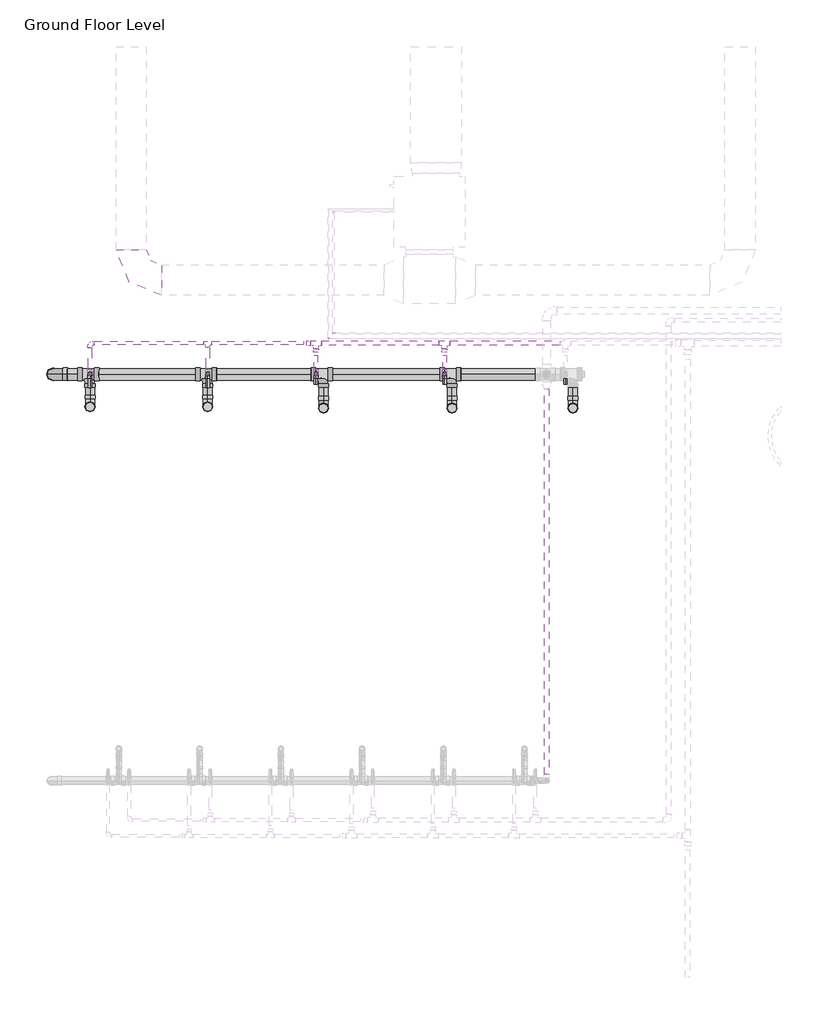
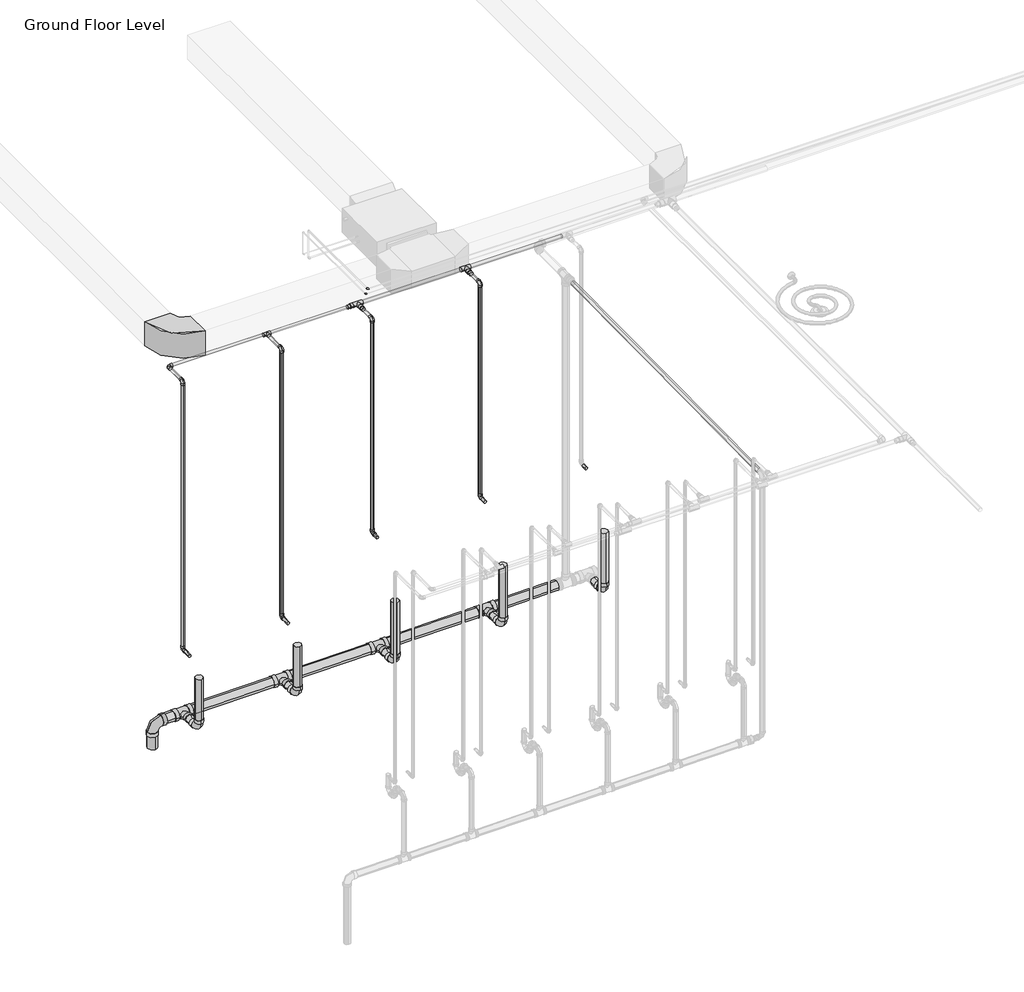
# One storey, part 42 of 74: 34 pipe segments, 27 pipe fittings, 1 duct fitting.
"""IFC4 building model written with IfcOpenShell, lengths in millimetres."""

from ifc_helpers import new_model, si_unit, point, frame, frame_2d, origin, place, context, project, spatial, circle_curve, trimmed, segment, composite_curve, outline, extrude, transform, mapped, element, save
from components import m_rectangular_elbow_radius_1_w_618da153, m_bend_pvc_sch_40_dwv_standard_a4b99d37, m_bend_pvc_sch_40_dwv_standard_b7b4a97e, m_elbow_generic_standard_a088f956, m_elbow_generic_standard_2a704253, m_tee_reducing_sanitary_pvc_sch_40_dwv_standard_b49161a9, standard_517a5a8d, standard_ecb2b93d, standard_28db8dab, standard_72b35c3b, standard_08ff6011, standard_d0d0b892

model = new_model("IFC4")

# Units and contexts
model_context = context("Model", 3, world=origin())
ifc_project = project(units=[si_unit("LENGTHUNIT", "METRE", prefix="MILLI")], contexts=[model_context])

# Site, building, storey
site = spatial("IfcSite", under=ifc_project)
building = spatial("IfcBuilding", under=site)
storey = spatial("IfcBuildingStorey", under=building, Name="Ground Floor Level", Elevation=900.0)

# Duct fitting
placement = place(None, origin())
m_rectangular_elbow_radius_1_w_shape = m_rectangular_elbow_radius_1_w_618da153(model_context)
element("IfcDuctFitting", 1, ObjectType="M_Rectangular Elbow - Radius : 1 W", at=placement, inside=storey, context=model_context, shape_type="MappedRepresentation", body=[
    mapped(m_rectangular_elbow_radius_1_w_shape, transform((-20937.2327605, 14069.8153534, 4075.2881511), x_axis=(0.0, -1.0, 0.0), y_axis=(1.0, 0.0, 0.0), z_axis=(0.0, 0.0, 1.0))),
])

# Pipe fittings
m_bend_pvc_sch_40_dwv_standard_shape = m_bend_pvc_sch_40_dwv_standard_a4b99d37(model_context)
element("IfcPipeFitting", 2, ObjectType="M_Bend - PVC - Sch 40 - DWV : Standard", at=placement, inside=storey, context=model_context, shape_type="MappedRepresentation", body=[
    mapped(m_bend_pvc_sch_40_dwv_standard_shape, transform((-21343.0428538, 12823.8178806, 203.6352174), x_axis=(0.0, 0.0, -1.0), y_axis=(0.0, 1.0, 0.0), z_axis=(1.0, 0.0, 0.0))),
])
element("IfcPipeFitting", 3, ObjectType="M_Bend - PVC - Sch 40 - DWV : Standard", at=placement, inside=storey, context=model_context, shape_type="MappedRepresentation", body=[
    mapped(m_bend_pvc_sch_40_dwv_standard_shape, transform((-20183.0428538, 12823.8178806, 215.2352174), x_axis=(0.0, 0.0, -1.0), y_axis=(0.0, 1.0, 0.0), z_axis=(1.0, 0.0, 0.0))),
])
element("IfcPipeFitting", 4, ObjectType="M_Bend - PVC - Sch 40 - DWV : Standard", at=placement, inside=storey, context=model_context, shape_type="MappedRepresentation", body=[
    mapped(m_bend_pvc_sch_40_dwv_standard_shape, transform((-19043.0428538, 12811.6726561, 226.6352174), x_axis=(0.0, 0.0, -1.0), y_axis=(0.0, 1.0, 0.0), z_axis=(1.0, 0.0, 0.0))),
])
element("IfcPipeFitting", 5, ObjectType="M_Bend - PVC - Sch 40 - DWV : Standard", at=placement, inside=storey, context=model_context, shape_type="MappedRepresentation", body=[
    mapped(m_bend_pvc_sch_40_dwv_standard_shape, transform((-17775.8329095, 12811.6726561, 239.3073168), x_axis=(0.0, 0.0, -1.0), y_axis=(0.0, 1.0, 0.0), z_axis=(1.0, 0.0, 0.0))),
])
element("IfcPipeFitting", 6, ObjectType="M_Bend - PVC - Sch 40 - DWV : Standard", at=placement, inside=storey, context=model_context, shape_type="MappedRepresentation", body=[
    mapped(m_bend_pvc_sch_40_dwv_standard_shape, transform((-16586.4202262, 12811.6726561, 251.2014437), x_axis=(0.0, 0.0, -1.0), y_axis=(0.0, 1.0, 0.0), z_axis=(1.0, 0.0, 0.0))),
])
m_bend_pvc_sch_40_dwv_standard_2_shape = m_bend_pvc_sch_40_dwv_standard_b7b4a97e(model_context)
element("IfcPipeFitting", 7, ObjectType="M_Bend - PVC - Sch 40 - DWV : Standard", at=placement, inside=storey, context=model_context, shape_type="MappedRepresentation", body=[
    mapped(m_bend_pvc_sch_40_dwv_standard_2_shape, transform((-21707.2327605, 13143.7240477, 200.1933183), x_axis=(0.0, 0.0, 1.0), y_axis=(1.0, 0.0, 0.0), z_axis=(0.0, 1.0, 0.0))),
])
m_elbow_generic_standard_shape = m_elbow_generic_standard_a088f956(model_context)
element("IfcPipeFitting", 8, ObjectType="M_Elbow - Generic : Standard", at=placement, inside=storey, context=model_context, shape_type="MappedRepresentation", body=[
    mapped(m_elbow_generic_standard_shape, transform((-18945.3327605, 13545.2153534, 4380.0), x_axis=(0.0, -1.0, 0.0), y_axis=(1.0, 0.0, 0.0), z_axis=(0.0, 0.0, 1.0))),
])
m_elbow_generic_standard_2_shape = m_elbow_generic_standard_2a704253(model_context)
element("IfcPipeFitting", 9, ObjectType="M_Elbow - Generic : Standard", at=placement, inside=storey, context=model_context, shape_type="MappedRepresentation", body=[
    mapped(m_elbow_generic_standard_2_shape, transform((-18995.0192947, 13494.0185138, 4365.0), x_axis=(0.0, -1.0, 0.0), y_axis=(1.0, 0.0, 0.0), z_axis=(0.0, 0.0, 1.0))),
])
m_tee_reducing_sanitary_pvc_sch_40_dwv_standard_shape = m_tee_reducing_sanitary_pvc_sch_40_dwv_standard_b49161a9(model_context)
element("IfcPipeFitting", 10, ObjectType="M_Tee Reducing Sanitary - PVC - Sch 40 - DWV : Standard", at=placement, inside=storey, context=model_context, shape_type="MappedRepresentation", body=[
    mapped(m_tee_reducing_sanitary_pvc_sch_40_dwv_standard_shape, transform((-21343.0428538, 13143.7240477, 203.6352174), x_axis=(0.9999500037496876, 0.0, 0.009999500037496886), y_axis=(0.0, 1.0, 0.0), z_axis=(-0.009999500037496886, 0.0, 0.9999500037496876))),
])
element("IfcPipeFitting", 11, ObjectType="M_Tee Reducing Sanitary - PVC - Sch 40 - DWV : Standard", at=placement, inside=storey, context=model_context, shape_type="MappedRepresentation", body=[
    mapped(m_tee_reducing_sanitary_pvc_sch_40_dwv_standard_shape, transform((-20183.0428538, 13143.7240477, 215.2352174), x_axis=(0.9999500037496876, 0.0, 0.009999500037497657), y_axis=(0.0, 1.0, 0.0), z_axis=(-0.009999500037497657, 0.0, 0.9999500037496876))),
])
element("IfcPipeFitting", 12, ObjectType="M_Tee Reducing Sanitary - PVC - Sch 40 - DWV : Standard", at=placement, inside=storey, context=model_context, shape_type="MappedRepresentation", body=[
    mapped(m_tee_reducing_sanitary_pvc_sch_40_dwv_standard_shape, transform((-19043.0428538, 13143.7240477, 226.6352174), x_axis=(0.9999500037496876, 0.0, 0.009999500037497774), y_axis=(0.0, 1.0000000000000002, 0.0), z_axis=(-0.009999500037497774, 0.0, 0.9999500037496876))),
])
element("IfcPipeFitting", 13, ObjectType="M_Tee Reducing Sanitary - PVC - Sch 40 - DWV : Standard", at=placement, inside=storey, context=model_context, shape_type="MappedRepresentation", body=[
    mapped(m_tee_reducing_sanitary_pvc_sch_40_dwv_standard_shape, transform((-17775.8329095, 13143.7240477, 239.3073168), x_axis=(0.9999500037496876, 0.0, 0.00999950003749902), y_axis=(0.0, 1.0000000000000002, 0.0), z_axis=(-0.00999950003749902, 0.0, 0.9999500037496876))),
])
standard_shape = standard_517a5a8d(model_context)
element("IfcPipeFitting", 14, ObjectType="M_Elbow - CPVC - Sch 40 : Standard", at=placement, inside=storey, context=model_context, shape_type="MappedRepresentation", body=[
    mapped(standard_shape, transform((-21343.0428538, 13149.9865561, 4315.0), x_axis=(0.0, 0.0, 1.0), y_axis=(0.0, 1.0, 0.0), z_axis=(-1.0, 0.0, 0.0))),
])
element("IfcPipeFitting", 15, ObjectType="M_Elbow - CPVC - Sch 40 : Standard", at=placement, inside=storey, context=model_context, shape_type="MappedRepresentation", body=[
    mapped(standard_shape, transform((-20183.0428538, 13149.9865561, 4315.0), x_axis=(0.0, 0.0, 1.0), y_axis=(0.0, 1.0, 0.0), z_axis=(-1.0, 0.0, 0.0))),
])
element("IfcPipeFitting", 16, ObjectType="M_Elbow - CPVC - Sch 40 : Standard", at=placement, inside=storey, context=model_context, shape_type="MappedRepresentation", body=[
    mapped(standard_shape, transform((-19116.48162, 13149.9865561, 1655.0), x_axis=(0.0, 1.0, 0.0), y_axis=(0.0, 0.0, 1.0), z_axis=(1.0, 0.0, 0.0))),
])
element("IfcPipeFitting", 17, ObjectType="M_Elbow - CPVC - Sch 40 : Standard", at=placement, inside=storey, context=model_context, shape_type="MappedRepresentation", body=[
    mapped(standard_shape, transform((-19116.48162, 13149.9865561, 4315.0), x_axis=(0.0, 0.0, 1.0), y_axis=(0.0, 1.0, 0.0), z_axis=(-1.0, 0.0, 0.0))),
])
element("IfcPipeFitting", 18, ObjectType="M_Elbow - CPVC - Sch 40 : Standard", at=placement, inside=storey, context=model_context, shape_type="MappedRepresentation", body=[
    mapped(standard_shape, transform((-17849.2716757, 13149.9865561, 4315.0), x_axis=(0.0, 0.0, 1.0), y_axis=(0.0, 1.0, 0.0), z_axis=(-1.0, 0.0, 0.0))),
])
element("IfcPipeFitting", 19, ObjectType="M_Elbow - CPVC - Sch 40 : Standard", at=placement, inside=storey, context=model_context, shape_type="MappedRepresentation", body=[
    mapped(standard_shape, transform((-17849.2716757, 13149.9865561, 1655.0), x_axis=(0.0, 0.0, -1.0), y_axis=(0.0, -1.0, 0.0), z_axis=(-1.0, 0.0, 0.0))),
])
element("IfcPipeFitting", 20, ObjectType="M_Elbow - CPVC - Sch 40 : Standard", at=placement, inside=storey, context=model_context, shape_type="MappedRepresentation", body=[
    mapped(standard_shape, transform((-21343.0428538, 13449.9865561, 4315.0), x_axis=(-1.0, 0.0, 0.0), y_axis=(0.0, -1.0, 0.0), z_axis=(0.0, 0.0, 1.0))),
])
standard_2_shape = standard_ecb2b93d(model_context)
element("IfcPipeFitting", 21, ObjectType="M_Elbow - CPVC - Sch 40 : Standard", at=placement, inside=storey, context=model_context, shape_type="MappedRepresentation", body=[
    mapped(standard_2_shape, transform((-21343.0428538, 13149.9865561, 983.5000035), x_axis=(0.0, 0.9999999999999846, 1.7577295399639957e-07), y_axis=(0.0, -1.7577295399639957e-07, 0.9999999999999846), z_axis=(1.0, 0.0, 0.0))),
])
standard_3_shape = standard_28db8dab(model_context)
element("IfcPipeFitting", 22, ObjectType="M_Elbow - CPVC - Sch 40 : Standard", at=placement, inside=storey, context=model_context, shape_type="MappedRepresentation", body=[
    mapped(standard_3_shape, transform((-20183.0428538, 13149.9865561, 983.4999984), x_axis=(0.0, 0.0, -1.0), y_axis=(0.0, -1.0, 0.0), z_axis=(-1.0, 0.0, 0.0))),
])
standard_4_shape = standard_72b35c3b(model_context)
element("IfcPipeFitting", 23, ObjectType="M_Tee - CPVC - Sch 40 : Standard", at=placement, inside=storey, context=model_context, shape_type="MappedRepresentation", body=[
    mapped(standard_4_shape, transform((-20183.0428538, 13449.9865561, 4315.0), x_axis=(-1.0, 0.0, 0.0), y_axis=(0.0, 1.0, 0.0), z_axis=(0.0, 0.0, -1.0))),
])
standard_5_shape = standard_08ff6011(model_context)
element("IfcPipeFitting", 24, ObjectType="M_Tee - CPVC - Sch 40 : Standard", at=placement, inside=storey, context=model_context, shape_type="MappedRepresentation", body=[
    mapped(standard_5_shape, transform((-19116.48162, 13449.9865561, 4315.0), x_axis=(-1.0, 0.0, 0.0), y_axis=(0.0, 1.0, 0.0), z_axis=(0.0, 0.0, -1.0))),
])
element("IfcPipeFitting", 25, ObjectType="M_Tee - CPVC - Sch 40 : Standard", at=placement, inside=storey, context=model_context, shape_type="MappedRepresentation", body=[
    mapped(standard_5_shape, transform((-17849.2716757, 13449.9865561, 4315.0), x_axis=(-1.0, 0.0, 0.0), y_axis=(0.0, 1.0, 0.0), z_axis=(0.0, 0.0, -1.0))),
])
standard_6_shape = standard_d0d0b892(model_context)
element("IfcPipeFitting", 26, ObjectType="M_Coupling Reducing - CPVC - Sch 40 : Standard", at=placement, inside=storey, context=model_context, shape_type="MappedRepresentation", body=[
    mapped(standard_6_shape, transform((-19116.48162, 13396.0115561, 4315.0), x_axis=(0.0, -1.0, 0.0), y_axis=(1.0, 0.0, 0.0), z_axis=(0.0, 0.0, 1.0))),
])
element("IfcPipeFitting", 27, ObjectType="M_Coupling Reducing - CPVC - Sch 40 : Standard", at=placement, inside=storey, context=model_context, shape_type="MappedRepresentation", body=[
    mapped(standard_6_shape, transform((-17849.2716757, 13396.0115561, 4315.0), x_axis=(0.0, -1.0, 0.0), y_axis=(1.0, 0.0, 0.0), z_axis=(0.0, 0.0, 1.0))),
])
element("IfcPipeFitting", 28, ObjectType="M_Coupling Reducing - CPVC - Sch 40 : Standard", at=placement, inside=storey, context=model_context, shape_type="MappedRepresentation", body=[
    mapped(standard_6_shape, transform((-19170.45662, 13449.9865561, 4315.0), x_axis=(-1.0, 0.0, 0.0), y_axis=(0.0, -1.0, 0.0), z_axis=(0.0, 0.0, 1.0))),
])

# Pipe segments
element("IfcPipeSegment", 29, ObjectType="CPVC", at=placement, inside=storey, context=model_context, shape_type="SweptSolid", body=[
    extrude(outline(composite_curve([segment(trimmed(circle_curve(frame_2d((983.4999789, -21343.0428538)), 16.7005), [point((983.4999789, -21326.3423538))], [point((1000.2004789, -21343.0428538))], False, "CARTESIAN"), True, "CONTINUOUS"), segment(trimmed(circle_curve(frame_2d((983.4999789, -21343.0428538)), 16.7005), [point((1000.2004789, -21343.0428538))], [point((983.4999789, -21359.7433538))], False, "CARTESIAN"), True, "CONTINUOUS"), segment(trimmed(circle_curve(frame_2d((983.4999789, -21343.0428538)), 16.7005), [point((983.4999789, -21359.7433538))], [point((966.7994789, -21343.0428538))], False, "CARTESIAN"), True, "CONTINUOUS"), segment(trimmed(circle_curve(frame_2d((983.4999789, -21343.0428538)), 16.7005), [point((966.7994789, -21343.0428538))], [point((983.4999789, -21326.3423538))], False, "CARTESIAN"), True, "CONTINUOUS")], self_intersect=False)), frame((0.0, 13009.9865561, 0.0), z_axis=(0.0, 1.0, 0.0), x_axis=(0.0, 0.0, 1.0)), (0.0, 0.0, 1.0), 96.7374537),
])
element("IfcPipeSegment", 30, ObjectType="CPVC", at=placement, inside=storey, context=model_context, shape_type="SweptSolid", body=[
    extrude(outline(composite_curve([segment(trimmed(circle_curve(frame_2d((4315.0, -21343.0428538)), 16.7005), [point((4315.0, -21326.3423538))], [point((4331.7005, -21343.0428538))], False, "CARTESIAN"), True, "CONTINUOUS"), segment(trimmed(circle_curve(frame_2d((4315.0, -21343.0428538)), 16.7005), [point((4331.7005, -21343.0428538))], [point((4315.0, -21359.7433538))], False, "CARTESIAN"), True, "CONTINUOUS"), segment(trimmed(circle_curve(frame_2d((4315.0, -21343.0428538)), 16.7005), [point((4315.0, -21359.7433538))], [point((4298.2995, -21343.0428538))], False, "CARTESIAN"), True, "CONTINUOUS"), segment(trimmed(circle_curve(frame_2d((4315.0, -21343.0428538)), 16.7005), [point((4298.2995, -21343.0428538))], [point((4315.0, -21326.3423538))], False, "CARTESIAN"), True, "CONTINUOUS")], self_intersect=False)), frame((0.0, 13193.2491061, 0.0), z_axis=(0.0, 1.0, 0.0), x_axis=(0.0, 0.0, 1.0)), (0.0, 0.0, 1.0), 213.4749),
])
element("IfcPipeSegment", 31, ObjectType="CPVC", at=placement, inside=storey, context=model_context, shape_type="SweptSolid", body=[
    extrude(outline(composite_curve([segment(trimmed(circle_curve(frame_2d((-21343.0428538, 13149.9865561)), 16.7005), [point((-21359.7433538, 13149.9865561))], [point((-21343.0428538, 13166.6870561))], False, "CARTESIAN"), True, "CONTINUOUS"), segment(trimmed(circle_curve(frame_2d((-21343.0428538, 13149.9865561)), 16.7005), [point((-21343.0428538, 13166.6870561))], [point((-21326.3423538, 13149.9865561))], False, "CARTESIAN"), True, "CONTINUOUS"), segment(trimmed(circle_curve(frame_2d((-21343.0428538, 13149.9865561)), 16.7005), [point((-21326.3423538, 13149.9865561))], [point((-21343.0428538, 13133.2860561))], False, "CARTESIAN"), True, "CONTINUOUS"), segment(trimmed(circle_curve(frame_2d((-21343.0428538, 13149.9865561)), 16.7005), [point((-21343.0428538, 13133.2860561))], [point((-21359.7433538, 13149.9865561))], False, "CARTESIAN"), True, "CONTINUOUS")], self_intersect=False)), frame((0.0, 0.0, 1026.7625498), z_axis=(0.0, 0.0, 1.0), x_axis=(1.0, 0.0, 0.0)), (0.0, 0.0, 1.0), 3244.9749002),
])
element("IfcPipeSegment", 32, ObjectType="CPVC", at=placement, inside=storey, context=model_context, shape_type="SweptSolid", body=[
    extrude(outline(composite_curve([segment(trimmed(circle_curve(frame_2d((983.4999924, -20183.0428538)), 16.7005), [point((983.4999924, -20199.7433538))], [point((966.7994924, -20183.0428538))], False, "CARTESIAN"), True, "CONTINUOUS"), segment(trimmed(circle_curve(frame_2d((983.4999924, -20183.0428538)), 16.7005), [point((966.7994924, -20183.0428538))], [point((983.4999924, -20166.3423538))], False, "CARTESIAN"), True, "CONTINUOUS"), segment(trimmed(circle_curve(frame_2d((983.4999924, -20183.0428538)), 16.7005), [point((983.4999924, -20166.3423538))], [point((1000.2004924, -20183.0428538))], False, "CARTESIAN"), True, "CONTINUOUS"), segment(trimmed(circle_curve(frame_2d((983.4999924, -20183.0428538)), 16.7005), [point((1000.2004924, -20183.0428538))], [point((983.4999924, -20199.7433538))], False, "CARTESIAN"), True, "CONTINUOUS")], self_intersect=False)), frame((0.0, 13009.9865561, 0.0), z_axis=(0.0, 1.0, 0.0), x_axis=(0.0, 0.0, 1.0)), (0.0, 0.0, 1.0), 96.7374529),
])
element("IfcPipeSegment", 33, ObjectType="CPVC", at=placement, inside=storey, context=model_context, shape_type="SweptSolid", body=[
    extrude(outline(composite_curve([segment(trimmed(circle_curve(frame_2d((-20183.0428538, 13149.9865561)), 16.7005), [point((-20199.7433538, 13149.9865561))], [point((-20183.0428538, 13166.6870561))], False, "CARTESIAN"), True, "CONTINUOUS"), segment(trimmed(circle_curve(frame_2d((-20183.0428538, 13149.9865561)), 16.7005), [point((-20183.0428538, 13166.6870561))], [point((-20166.3423538, 13149.9865561))], False, "CARTESIAN"), True, "CONTINUOUS"), segment(trimmed(circle_curve(frame_2d((-20183.0428538, 13149.9865561)), 16.7005), [point((-20166.3423538, 13149.9865561))], [point((-20183.0428538, 13133.2860561))], False, "CARTESIAN"), True, "CONTINUOUS"), segment(trimmed(circle_curve(frame_2d((-20183.0428538, 13149.9865561)), 16.7005), [point((-20183.0428538, 13133.2860561))], [point((-20199.7433538, 13149.9865561))], False, "CARTESIAN"), True, "CONTINUOUS")], self_intersect=False)), frame((0.0, 0.0, 1026.7625455), z_axis=(0.0, 0.0, 1.0), x_axis=(1.0, 0.0, 0.0)), (0.0, 0.0, 1.0), 3244.9749045),
])
element("IfcPipeSegment", 34, ObjectType="CPVC", at=placement, inside=storey, context=model_context, shape_type="SweptSolid", body=[
    extrude(outline(composite_curve([segment(trimmed(circle_curve(frame_2d((1655.0, -19116.48162)), 16.7005), [point((1655.0, -19099.78112))], [point((1671.7005, -19116.48162))], False, "CARTESIAN"), True, "CONTINUOUS"), segment(trimmed(circle_curve(frame_2d((1655.0, -19116.48162)), 16.7005), [point((1671.7005, -19116.48162))], [point((1655.0, -19133.18212))], False, "CARTESIAN"), True, "CONTINUOUS"), segment(trimmed(circle_curve(frame_2d((1655.0, -19116.48162)), 16.7005), [point((1655.0, -19133.18212))], [point((1638.2995, -19116.48162))], False, "CARTESIAN"), True, "CONTINUOUS"), segment(trimmed(circle_curve(frame_2d((1655.0, -19116.48162)), 16.7005), [point((1638.2995, -19116.48162))], [point((1655.0, -19099.78112))], False, "CARTESIAN"), True, "CONTINUOUS")], self_intersect=False)), frame((0.0, 13045.2153534, 0.0), z_axis=(0.0, 1.0, 0.0), x_axis=(0.0, 0.0, 1.0)), (0.0, 0.0, 1.0), 61.5086528),
])
element("IfcPipeSegment", 35, ObjectType="CPVC", at=placement, inside=storey, context=model_context, shape_type="SweptSolid", body=[
    extrude(outline(composite_curve([segment(trimmed(circle_curve(frame_2d((-19116.48162, 13149.9865561)), 16.7005), [point((-19133.18212, 13149.9865561))], [point((-19116.48162, 13166.6870561))], False, "CARTESIAN"), True, "CONTINUOUS"), segment(trimmed(circle_curve(frame_2d((-19116.48162, 13149.9865561)), 16.7005), [point((-19116.48162, 13166.6870561))], [point((-19099.78112, 13149.9865561))], False, "CARTESIAN"), True, "CONTINUOUS"), segment(trimmed(circle_curve(frame_2d((-19116.48162, 13149.9865561)), 16.7005), [point((-19099.78112, 13149.9865561))], [point((-19116.48162, 13133.2860561))], False, "CARTESIAN"), True, "CONTINUOUS"), segment(trimmed(circle_curve(frame_2d((-19116.48162, 13149.9865561)), 16.7005), [point((-19116.48162, 13133.2860561))], [point((-19133.18212, 13149.9865561))], False, "CARTESIAN"), True, "CONTINUOUS")], self_intersect=False)), frame((0.0, 0.0, 1698.26255), z_axis=(0.0, 0.0, 1.0), x_axis=(1.0, 0.0, 0.0)), (0.0, 0.0, 1.0), 2573.4749),
])
element("IfcPipeSegment", 36, ObjectType="CPVC", at=placement, inside=storey, context=model_context, shape_type="SweptSolid", body=[
    extrude(outline(composite_curve([segment(trimmed(circle_curve(frame_2d((1655.0, -17849.2716757)), 16.7005), [point((1655.0, -17865.9721757))], [point((1638.2995, -17849.2716757))], False, "CARTESIAN"), True, "CONTINUOUS"), segment(trimmed(circle_curve(frame_2d((1655.0, -17849.2716757)), 16.7005), [point((1638.2995, -17849.2716757))], [point((1655.0, -17832.5711757))], False, "CARTESIAN"), True, "CONTINUOUS"), segment(trimmed(circle_curve(frame_2d((1655.0, -17849.2716757)), 16.7005), [point((1655.0, -17832.5711757))], [point((1671.7005, -17849.2716757))], False, "CARTESIAN"), True, "CONTINUOUS"), segment(trimmed(circle_curve(frame_2d((1655.0, -17849.2716757)), 16.7005), [point((1671.7005, -17849.2716757))], [point((1655.0, -17865.9721757))], False, "CARTESIAN"), True, "CONTINUOUS")], self_intersect=False)), frame((0.0, 13045.2153534, 0.0), z_axis=(0.0, 1.0, 0.0), x_axis=(0.0, 0.0, 1.0)), (0.0, 0.0, 1.0), 61.5086528),
])
element("IfcPipeSegment", 37, ObjectType="CPVC", at=placement, inside=storey, context=model_context, shape_type="SweptSolid", body=[
    extrude(outline(composite_curve([segment(trimmed(circle_curve(frame_2d((-17849.2716757, 13149.9865561)), 16.7005), [point((-17865.9721757, 13149.9865561))], [point((-17849.2716757, 13166.6870561))], False, "CARTESIAN"), True, "CONTINUOUS"), segment(trimmed(circle_curve(frame_2d((-17849.2716757, 13149.9865561)), 16.7005), [point((-17849.2716757, 13166.6870561))], [point((-17832.5711757, 13149.9865561))], False, "CARTESIAN"), True, "CONTINUOUS"), segment(trimmed(circle_curve(frame_2d((-17849.2716757, 13149.9865561)), 16.7005), [point((-17832.5711757, 13149.9865561))], [point((-17849.2716757, 13133.2860561))], False, "CARTESIAN"), True, "CONTINUOUS"), segment(trimmed(circle_curve(frame_2d((-17849.2716757, 13149.9865561)), 16.7005), [point((-17849.2716757, 13133.2860561))], [point((-17865.9721757, 13149.9865561))], False, "CARTESIAN"), True, "CONTINUOUS")], self_intersect=False)), frame((0.0, 0.0, 1698.26255), z_axis=(0.0, 0.0, 1.0), x_axis=(1.0, 0.0, 0.0)), (0.0, 0.0, 1.0), 2573.4749),
])
element("IfcPipeSegment", 38, ObjectType="CPVC", at=placement, inside=storey, context=model_context, shape_type="SweptSolid", body=[
    extrude(outline(composite_curve([segment(trimmed(circle_curve(frame_2d((1655.0, -16659.8589924)), 16.7005), [point((1655.0, -16676.5594924))], [point((1638.2995, -16659.8589924))], False, "CARTESIAN"), True, "CONTINUOUS"), segment(trimmed(circle_curve(frame_2d((1655.0, -16659.8589924)), 16.7005), [point((1638.2995, -16659.8589924))], [point((1655.0, -16643.1584924))], False, "CARTESIAN"), True, "CONTINUOUS"), segment(trimmed(circle_curve(frame_2d((1655.0, -16659.8589924)), 16.7005), [point((1655.0, -16643.1584924))], [point((1671.7005, -16659.8589924))], False, "CARTESIAN"), True, "CONTINUOUS"), segment(trimmed(circle_curve(frame_2d((1655.0, -16659.8589924)), 16.7005), [point((1671.7005, -16659.8589924))], [point((1655.0, -16676.5594924))], False, "CARTESIAN"), True, "CONTINUOUS")], self_intersect=False)), frame((0.0, 13045.2153534, 0.0), z_axis=(0.0, 1.0, 0.0), x_axis=(0.0, 0.0, 1.0)), (0.0, 0.0, 1.0), 61.5086528),
])
element("IfcPipeSegment", 39, ObjectType="CPVC", at=placement, inside=storey, context=model_context, shape_type="SweptSolid", body=[
    extrude(outline(composite_curve([segment(trimmed(circle_curve(frame_2d((13449.9865561, 4315.0)), 16.7005), [point((13433.2860561, 4315.0))], [point((13449.9865561, 4331.7005))], False, "CARTESIAN"), True, "CONTINUOUS"), segment(trimmed(circle_curve(frame_2d((13449.9865561, 4315.0)), 16.7005), [point((13449.9865561, 4331.7005))], [point((13466.6870561, 4315.0))], False, "CARTESIAN"), True, "CONTINUOUS"), segment(trimmed(circle_curve(frame_2d((13449.9865561, 4315.0)), 16.7005), [point((13466.6870561, 4315.0))], [point((13449.9865561, 4298.2995))], False, "CARTESIAN"), True, "CONTINUOUS"), segment(trimmed(circle_curve(frame_2d((13449.9865561, 4315.0)), 16.7005), [point((13449.9865561, 4298.2995))], [point((13433.2860561, 4315.0))], False, "CARTESIAN"), True, "CONTINUOUS")], self_intersect=False)), frame((-21299.7803038, 0.0, 0.0), z_axis=(1.0, 0.0, 0.0), x_axis=(0.0, 1.0, 0.0)), (0.0, 0.0, 1.0), 1077.03725),
])
element("IfcPipeSegment", 40, ObjectType="CPVC", at=placement, inside=storey, context=model_context, shape_type="SweptSolid", body=[
    extrude(outline(composite_curve([segment(trimmed(circle_curve(frame_2d((4315.0, -20183.0428538)), 16.7005), [point((4315.0, -20166.3423538))], [point((4331.7005, -20183.0428538))], False, "CARTESIAN"), True, "CONTINUOUS"), segment(trimmed(circle_curve(frame_2d((4315.0, -20183.0428538)), 16.7005), [point((4331.7005, -20183.0428538))], [point((4315.0, -20199.7433538))], False, "CARTESIAN"), True, "CONTINUOUS"), segment(trimmed(circle_curve(frame_2d((4315.0, -20183.0428538)), 16.7005), [point((4315.0, -20199.7433538))], [point((4298.2995, -20183.0428538))], False, "CARTESIAN"), True, "CONTINUOUS"), segment(trimmed(circle_curve(frame_2d((4315.0, -20183.0428538)), 16.7005), [point((4298.2995, -20183.0428538))], [point((4315.0, -20166.3423538))], False, "CARTESIAN"), True, "CONTINUOUS")], self_intersect=False)), frame((0.0, 13193.2491061, 0.0), z_axis=(0.0, 1.0, 0.0), x_axis=(0.0, 0.0, 1.0)), (0.0, 0.0, 1.0), 217.03725),
])
element("IfcPipeSegment", 41, ObjectType="CPVC", at=placement, inside=storey, context=model_context, shape_type="SweptSolid", body=[
    extrude(outline(composite_curve([segment(trimmed(circle_curve(frame_2d((13449.9865561, 4315.0)), 16.7005), [point((13433.2860561, 4315.0))], [point((13449.9865561, 4331.7005))], False, "CARTESIAN"), True, "CONTINUOUS"), segment(trimmed(circle_curve(frame_2d((13449.9865561, 4315.0)), 16.7005), [point((13449.9865561, 4331.7005))], [point((13466.6870561, 4315.0))], False, "CARTESIAN"), True, "CONTINUOUS"), segment(trimmed(circle_curve(frame_2d((13449.9865561, 4315.0)), 16.7005), [point((13466.6870561, 4315.0))], [point((13449.9865561, 4298.2995))], False, "CARTESIAN"), True, "CONTINUOUS"), segment(trimmed(circle_curve(frame_2d((13449.9865561, 4315.0)), 16.7005), [point((13449.9865561, 4298.2995))], [point((13433.2860561, 4315.0))], False, "CARTESIAN"), True, "CONTINUOUS")], self_intersect=False)), frame((-20143.3426538, 0.0, 0.0), z_axis=(1.0, 0.0, 0.0), x_axis=(0.0, 1.0, 0.0)), (0.0, 0.0, 1.0), 906.7671588),
])
element("IfcPipeSegment", 42, ObjectType="CPVC", at=placement, inside=storey, context=model_context, shape_type="SweptSolid", body=[
    extrude(outline(composite_curve([segment(trimmed(circle_curve(frame_2d((4315.0, -19116.48162)), 16.7005), [point((4315.0, -19099.78112))], [point((4331.7005, -19116.48162))], False, "CARTESIAN"), True, "CONTINUOUS"), segment(trimmed(circle_curve(frame_2d((4315.0, -19116.48162)), 16.7005), [point((4331.7005, -19116.48162))], [point((4315.0, -19133.18212))], False, "CARTESIAN"), True, "CONTINUOUS"), segment(trimmed(circle_curve(frame_2d((4315.0, -19116.48162)), 16.7005), [point((4315.0, -19133.18212))], [point((4298.2995, -19116.48162))], False, "CARTESIAN"), True, "CONTINUOUS"), segment(trimmed(circle_curve(frame_2d((4315.0, -19116.48162)), 16.7005), [point((4298.2995, -19116.48162))], [point((4315.0, -19099.78112))], False, "CARTESIAN"), True, "CONTINUOUS")], self_intersect=False)), frame((0.0, 13193.2491061, 0.0), z_axis=(0.0, 1.0, 0.0), x_axis=(0.0, 0.0, 1.0)), (0.0, 0.0, 1.0), 136.643575),
])
element("IfcPipeSegment", 43, ObjectType="CPVC", at=placement, inside=storey, context=model_context, shape_type="SweptSolid", body=[
    extrude(outline(composite_curve([segment(trimmed(circle_curve(frame_2d((13449.9865561, 4315.0)), 21.082), [point((13428.9045561, 4315.0))], [point((13449.9865561, 4336.082))], False, "CARTESIAN"), True, "CONTINUOUS"), segment(trimmed(circle_curve(frame_2d((13449.9865561, 4315.0)), 21.082), [point((13449.9865561, 4336.082))], [point((13471.0685561, 4315.0))], False, "CARTESIAN"), True, "CONTINUOUS"), segment(trimmed(circle_curve(frame_2d((13449.9865561, 4315.0)), 21.082), [point((13471.0685561, 4315.0))], [point((13449.9865561, 4293.918))], False, "CARTESIAN"), True, "CONTINUOUS"), segment(trimmed(circle_curve(frame_2d((13449.9865561, 4315.0)), 21.082), [point((13449.9865561, 4293.918))], [point((13428.9045561, 4315.0))], False, "CARTESIAN"), True, "CONTINUOUS")], self_intersect=False)), frame((-19062.50662, 0.0, 0.0), z_axis=(1.0, 0.0, 0.0), x_axis=(0.0, 1.0, 0.0)), (0.0, 0.0, 1.0), 1159.2599443),
])
element("IfcPipeSegment", 44, ObjectType="CPVC", at=placement, inside=storey, context=model_context, shape_type="SweptSolid", body=[
    extrude(outline(composite_curve([segment(trimmed(circle_curve(frame_2d((4315.0, -17849.2716757)), 16.7005), [point((4315.0, -17832.5711757))], [point((4331.7005, -17849.2716757))], False, "CARTESIAN"), True, "CONTINUOUS"), segment(trimmed(circle_curve(frame_2d((4315.0, -17849.2716757)), 16.7005), [point((4331.7005, -17849.2716757))], [point((4315.0, -17865.9721757))], False, "CARTESIAN"), True, "CONTINUOUS"), segment(trimmed(circle_curve(frame_2d((4315.0, -17849.2716757)), 16.7005), [point((4315.0, -17865.9721757))], [point((4298.2995, -17849.2716757))], False, "CARTESIAN"), True, "CONTINUOUS"), segment(trimmed(circle_curve(frame_2d((4315.0, -17849.2716757)), 16.7005), [point((4298.2995, -17849.2716757))], [point((4315.0, -17832.5711757))], False, "CARTESIAN"), True, "CONTINUOUS")], self_intersect=False)), frame((0.0, 13193.2491061, 0.0), z_axis=(0.0, 1.0, 0.0), x_axis=(0.0, 0.0, 1.0)), (0.0, 0.0, 1.0), 136.643575),
])
element("IfcPipeSegment", 45, ObjectType="CPVC", at=placement, inside=storey, context=model_context, shape_type="SweptSolid", body=[
    extrude(outline(composite_curve([segment(trimmed(circle_curve(frame_2d((13449.9865561, 4315.0)), 21.082), [point((13428.9045561, 4315.0))], [point((13449.9865561, 4336.082))], False, "CARTESIAN"), True, "CONTINUOUS"), segment(trimmed(circle_curve(frame_2d((13449.9865561, 4315.0)), 21.082), [point((13449.9865561, 4336.082))], [point((13471.0685561, 4315.0))], False, "CARTESIAN"), True, "CONTINUOUS"), segment(trimmed(circle_curve(frame_2d((13449.9865561, 4315.0)), 21.082), [point((13471.0685561, 4315.0))], [point((13449.9865561, 4293.918))], False, "CARTESIAN"), True, "CONTINUOUS"), segment(trimmed(circle_curve(frame_2d((13449.9865561, 4315.0)), 21.082), [point((13449.9865561, 4293.918))], [point((13428.9045561, 4315.0))], False, "CARTESIAN"), True, "CONTINUOUS")], self_intersect=False)), frame((-17795.2966757, 0.0, 0.0), z_axis=(1.0, 0.0, 0.0), x_axis=(0.0, 1.0, 0.0)), (0.0, 0.0, 1.0), 1081.4626833),
])
element("IfcPipeSegment", 46, ObjectType="PVC - DWV", at=placement, inside=storey, context=model_context, shape_type="SweptSolid", body=[
    extrude(outline(composite_curve([segment(trimmed(circle_curve(frame_2d((-21343.0428538, 12823.8178806)), 44.45), [point((-21298.5928538, 12823.8178806))], [point((-21343.0428538, 12779.3678806))], False, "CARTESIAN"), True, "CONTINUOUS"), segment(trimmed(circle_curve(frame_2d((-21343.0428538, 12823.8178806)), 44.45), [point((-21343.0428538, 12779.3678806))], [point((-21387.4928538, 12823.8178806))], False, "CARTESIAN"), True, "CONTINUOUS"), segment(trimmed(circle_curve(frame_2d((-21343.0428538, 12823.8178806)), 44.45), [point((-21387.4928538, 12823.8178806))], [point((-21343.0428538, 12868.2678806))], False, "CARTESIAN"), True, "CONTINUOUS"), segment(trimmed(circle_curve(frame_2d((-21343.0428538, 12823.8178806)), 44.45), [point((-21343.0428538, 12868.2678806))], [point((-21298.5928538, 12823.8178806))], False, "CARTESIAN"), True, "CONTINUOUS")], self_intersect=False)), frame((0.0, 0.0, 319.5354174), z_axis=(0.0, 0.0, 1.0), x_axis=(1.0, 0.0, 0.0)), (0.0, 0.0, 1.0), 511.1329592),
])
element("IfcPipeSegment", 47, ObjectType="PVC - DWV", at=placement, inside=storey, context=model_context, shape_type="SweptSolid", body=[
    extrude(outline(composite_curve([segment(trimmed(circle_curve(frame_2d((203.6352174, -21343.0428538)), 44.45), [point((203.6352174, -21298.5928538))], [point((248.0852174, -21343.0428538))], False, "CARTESIAN"), True, "CONTINUOUS"), segment(trimmed(circle_curve(frame_2d((203.6352174, -21343.0428538)), 44.45), [point((248.0852174, -21343.0428538))], [point((203.6352174, -21387.4928538))], False, "CARTESIAN"), True, "CONTINUOUS"), segment(trimmed(circle_curve(frame_2d((203.6352174, -21343.0428538)), 44.45), [point((203.6352174, -21387.4928538))], [point((159.1852174, -21343.0428538))], False, "CARTESIAN"), True, "CONTINUOUS"), segment(trimmed(circle_curve(frame_2d((203.6352174, -21343.0428538)), 44.45), [point((159.1852174, -21343.0428538))], [point((203.6352174, -21298.5928538))], False, "CARTESIAN"), True, "CONTINUOUS")], self_intersect=False)), frame((0.0, 12939.7180806, 0.0), z_axis=(0.0, 1.0, 0.0), x_axis=(0.0, 0.0, 1.0)), (0.0, 0.0, 1.0), 75.4057671),
])
element("IfcPipeSegment", 48, ObjectType="PVC - DWV", at=placement, inside=storey, context=model_context, shape_type="SweptSolid", body=[
    extrude(outline(composite_curve([segment(trimmed(circle_curve(frame_2d((0.0, -57.15)), 57.15), [point((0.0, 0.0))], [point((57.15, -57.15))], False, "CARTESIAN"), True, "CONTINUOUS"), segment(trimmed(circle_curve(frame_2d((0.0, -57.15)), 57.15), [point((57.15, -57.15))], [point((0.0, -114.3))], False, "CARTESIAN"), True, "CONTINUOUS"), segment(trimmed(circle_curve(frame_2d((0.0, -57.15)), 57.15), [point((0.0, -114.3))], [point((-57.15, -57.15))], False, "CARTESIAN"), True, "CONTINUOUS"), segment(trimmed(circle_curve(frame_2d((0.0, -57.15)), 57.15), [point((-57.15, -57.15))], [point((0.0, 0.0))], False, "CARTESIAN"), True, "CONTINUOUS")], self_intersect=False)), frame((-21564.3649037, 13200.8740477, 201.6219969), z_axis=(0.9999500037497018, 0.0, 0.00999950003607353), x_axis=(0.00999950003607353, 0.0, -0.9999500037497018)), (0.0, 0.0, 1.0), 100.6811159),
])
element("IfcPipeSegment", 49, ObjectType="PVC - DWV", at=placement, inside=storey, context=model_context, shape_type="SweptSolid", body=[
    extrude(outline(composite_curve([segment(trimmed(circle_curve(frame_2d((-20183.0428538, 12823.8178806)), 44.45), [point((-20138.5928538, 12823.8178806))], [point((-20183.0428538, 12779.3678806))], False, "CARTESIAN"), True, "CONTINUOUS"), segment(trimmed(circle_curve(frame_2d((-20183.0428538, 12823.8178806)), 44.45), [point((-20183.0428538, 12779.3678806))], [point((-20227.4928538, 12823.8178806))], False, "CARTESIAN"), True, "CONTINUOUS"), segment(trimmed(circle_curve(frame_2d((-20183.0428538, 12823.8178806)), 44.45), [point((-20227.4928538, 12823.8178806))], [point((-20183.0428538, 12868.2678806))], False, "CARTESIAN"), True, "CONTINUOUS"), segment(trimmed(circle_curve(frame_2d((-20183.0428538, 12823.8178806)), 44.45), [point((-20183.0428538, 12868.2678806))], [point((-20138.5928538, 12823.8178806))], False, "CARTESIAN"), True, "CONTINUOUS")], self_intersect=False)), frame((0.0, 0.0, 331.1354174), z_axis=(0.0, 0.0, 1.0), x_axis=(1.0, 0.0, 0.0)), (0.0, 0.0, 1.0), 499.5329592),
])
element("IfcPipeSegment", 50, ObjectType="PVC - DWV", at=placement, inside=storey, context=model_context, shape_type="SweptSolid", body=[
    extrude(outline(composite_curve([segment(trimmed(circle_curve(frame_2d((215.2352174, -20183.0428538)), 44.45), [point((215.2352174, -20138.5928538))], [point((259.6852174, -20183.0428538))], False, "CARTESIAN"), True, "CONTINUOUS"), segment(trimmed(circle_curve(frame_2d((215.2352174, -20183.0428538)), 44.45), [point((259.6852174, -20183.0428538))], [point((215.2352174, -20227.4928538))], False, "CARTESIAN"), True, "CONTINUOUS"), segment(trimmed(circle_curve(frame_2d((215.2352174, -20183.0428538)), 44.45), [point((215.2352174, -20227.4928538))], [point((170.7852174, -20183.0428538))], False, "CARTESIAN"), True, "CONTINUOUS"), segment(trimmed(circle_curve(frame_2d((215.2352174, -20183.0428538)), 44.45), [point((170.7852174, -20183.0428538))], [point((215.2352174, -20138.5928538))], False, "CARTESIAN"), True, "CONTINUOUS")], self_intersect=False)), frame((0.0, 12939.7180806, 0.0), z_axis=(0.0, 1.0, 0.0), x_axis=(0.0, 0.0, 1.0)), (0.0, 0.0, 1.0), 75.4057671),
])
element("IfcPipeSegment", 51, ObjectType="PVC - DWV", at=placement, inside=storey, context=model_context, shape_type="SweptSolid", body=[
    extrude(outline(composite_curve([segment(trimmed(circle_curve(frame_2d((0.0, -57.15)), 57.15), [point((0.0, 0.0))], [point((57.1500001, -57.15))], False, "CARTESIAN"), True, "CONTINUOUS"), segment(trimmed(circle_curve(frame_2d((0.0, -57.15)), 57.15), [point((57.1500001, -57.15))], [point((0.0, -114.3))], False, "CARTESIAN"), True, "CONTINUOUS"), segment(trimmed(circle_curve(frame_2d((0.0, -57.15)), 57.15), [point((0.0, -114.3))], [point((-57.15, -57.15))], False, "CARTESIAN"), True, "CONTINUOUS"), segment(trimmed(circle_curve(frame_2d((0.0, -57.15)), 57.15), [point((-57.15, -57.15))], [point((0.0, 0.0))], False, "CARTESIAN"), True, "CONTINUOUS")], self_intersect=False)), frame((-21254.1472985, 13200.8740477, 204.524173), z_axis=(0.9999500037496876, 0.0, 0.009999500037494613), x_axis=(0.009999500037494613, 0.0, -0.9999500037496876)), (0.0, 0.0, 1.0), 950.5079986),
])
element("IfcPipeSegment", 52, ObjectType="PVC - DWV", at=placement, inside=storey, context=model_context, shape_type="SweptSolid", body=[
    extrude(outline(composite_curve([segment(trimmed(circle_curve(frame_2d((-19043.0428538, 12811.6726561)), 44.45), [point((-18998.5928538, 12811.6726561))], [point((-19043.0428538, 12767.2226561))], False, "CARTESIAN"), True, "CONTINUOUS"), segment(trimmed(circle_curve(frame_2d((-19043.0428538, 12811.6726561)), 44.45), [point((-19043.0428538, 12767.2226561))], [point((-19087.4928538, 12811.6726561))], False, "CARTESIAN"), True, "CONTINUOUS"), segment(trimmed(circle_curve(frame_2d((-19043.0428538, 12811.6726561)), 44.45), [point((-19087.4928538, 12811.6726561))], [point((-19043.0428538, 12856.1226561))], False, "CARTESIAN"), True, "CONTINUOUS"), segment(trimmed(circle_curve(frame_2d((-19043.0428538, 12811.6726561)), 44.45), [point((-19043.0428538, 12856.1226561))], [point((-18998.5928538, 12811.6726561))], False, "CARTESIAN"), True, "CONTINUOUS")], self_intersect=False)), frame((0.0, 0.0, 342.5354174), z_axis=(0.0, 0.0, 1.0), x_axis=(1.0, 0.0, 0.0)), (0.0, 0.0, 1.0), 647.4645826),
])
element("IfcPipeSegment", 53, ObjectType="PVC - DWV", at=placement, inside=storey, context=model_context, shape_type="SweptSolid", body=[
    extrude(outline(composite_curve([segment(trimmed(circle_curve(frame_2d((226.6352174, -19043.0428538)), 44.45), [point((226.6352174, -18998.5928538))], [point((271.0852174, -19043.0428538))], False, "CARTESIAN"), True, "CONTINUOUS"), segment(trimmed(circle_curve(frame_2d((226.6352174, -19043.0428538)), 44.45), [point((271.0852174, -19043.0428538))], [point((226.6352174, -19087.4928538))], False, "CARTESIAN"), True, "CONTINUOUS"), segment(trimmed(circle_curve(frame_2d((226.6352174, -19043.0428538)), 44.45), [point((226.6352174, -19087.4928538))], [point((182.1852174, -19043.0428538))], False, "CARTESIAN"), True, "CONTINUOUS"), segment(trimmed(circle_curve(frame_2d((226.6352174, -19043.0428538)), 44.45), [point((182.1852174, -19043.0428538))], [point((226.6352174, -18998.5928538))], False, "CARTESIAN"), True, "CONTINUOUS")], self_intersect=False)), frame((0.0, 12927.5728561, 0.0), z_axis=(0.0, 1.0, 0.0), x_axis=(0.0, 0.0, 1.0)), (0.0, 0.0, 1.0), 87.5509916),
])
element("IfcPipeSegment", 54, ObjectType="PVC - DWV", at=placement, inside=storey, context=model_context, shape_type="SweptSolid", body=[
    extrude(outline(composite_curve([segment(trimmed(circle_curve(frame_2d((0.0, -57.15)), 57.15), [point((0.0, 0.0))], [point((57.1500001, -57.15))], False, "CARTESIAN"), True, "CONTINUOUS"), segment(trimmed(circle_curve(frame_2d((0.0, -57.15)), 57.15), [point((57.1500001, -57.15))], [point((0.0, -114.3))], False, "CARTESIAN"), True, "CONTINUOUS"), segment(trimmed(circle_curve(frame_2d((0.0, -57.15)), 57.15), [point((0.0, -114.3))], [point((-57.15, -57.15))], False, "CARTESIAN"), True, "CONTINUOUS"), segment(trimmed(circle_curve(frame_2d((0.0, -57.15)), 57.15), [point((-57.15, -57.15))], [point((0.0, 0.0))], False, "CARTESIAN"), True, "CONTINUOUS")], self_intersect=False)), frame((-20094.1472985, 13200.8740477, 216.124173), z_axis=(0.9999500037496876, 0.0, 0.009999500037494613), x_axis=(0.009999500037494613, 0.0, -0.9999500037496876)), (0.0, 0.0, 1.0), 930.5069986),
])
element("IfcPipeSegment", 55, ObjectType="PVC - DWV", at=placement, inside=storey, context=model_context, shape_type="SweptSolid", body=[
    extrude(outline(composite_curve([segment(trimmed(circle_curve(frame_2d((-17775.8329095, 12811.6726561)), 44.45), [point((-17731.3829095, 12811.6726561))], [point((-17775.8329095, 12767.2226561))], False, "CARTESIAN"), True, "CONTINUOUS"), segment(trimmed(circle_curve(frame_2d((-17775.8329095, 12811.6726561)), 44.45), [point((-17775.8329095, 12767.2226561))], [point((-17820.2829095, 12811.6726561))], False, "CARTESIAN"), True, "CONTINUOUS"), segment(trimmed(circle_curve(frame_2d((-17775.8329095, 12811.6726561)), 44.45), [point((-17820.2829095, 12811.6726561))], [point((-17775.8329095, 12856.1226561))], False, "CARTESIAN"), True, "CONTINUOUS"), segment(trimmed(circle_curve(frame_2d((-17775.8329095, 12811.6726561)), 44.45), [point((-17775.8329095, 12856.1226561))], [point((-17731.3829095, 12811.6726561))], False, "CARTESIAN"), True, "CONTINUOUS")], self_intersect=False)), frame((0.0, 0.0, 355.2075168), z_axis=(0.0, 0.0, 1.0), x_axis=(1.0, 0.0, 0.0)), (0.0, 0.0, 1.0), 634.7924832),
])
element("IfcPipeSegment", 56, ObjectType="PVC - DWV", at=placement, inside=storey, context=model_context, shape_type="SweptSolid", body=[
    extrude(outline(composite_curve([segment(trimmed(circle_curve(frame_2d((239.3073168, -17775.8329095)), 44.45), [point((239.3073168, -17731.3829095))], [point((283.7573168, -17775.8329095))], False, "CARTESIAN"), True, "CONTINUOUS"), segment(trimmed(circle_curve(frame_2d((239.3073168, -17775.8329095)), 44.45), [point((283.7573168, -17775.8329095))], [point((239.3073168, -17820.2829095))], False, "CARTESIAN"), True, "CONTINUOUS"), segment(trimmed(circle_curve(frame_2d((239.3073168, -17775.8329095)), 44.45), [point((239.3073168, -17820.2829095))], [point((194.8573168, -17775.8329095))], False, "CARTESIAN"), True, "CONTINUOUS"), segment(trimmed(circle_curve(frame_2d((239.3073168, -17775.8329095)), 44.45), [point((194.8573168, -17775.8329095))], [point((239.3073168, -17731.3829095))], False, "CARTESIAN"), True, "CONTINUOUS")], self_intersect=False)), frame((0.0, 12927.5728561, 0.0), z_axis=(0.0, 1.0, 0.0), x_axis=(0.0, 0.0, 1.0)), (0.0, 0.0, 1.0), 87.5509916),
])
element("IfcPipeSegment", 57, ObjectType="PVC - DWV", at=placement, inside=storey, context=model_context, shape_type="SweptSolid", body=[
    extrude(outline(composite_curve([segment(trimmed(circle_curve(frame_2d((0.0, -57.15)), 57.15), [point((0.0, 0.0))], [point((57.1500001, -57.15))], False, "CARTESIAN"), True, "CONTINUOUS"), segment(trimmed(circle_curve(frame_2d((0.0, -57.15)), 57.15), [point((57.1500001, -57.15))], [point((0.0, -114.3))], False, "CARTESIAN"), True, "CONTINUOUS"), segment(trimmed(circle_curve(frame_2d((0.0, -57.15)), 57.15), [point((0.0, -114.3))], [point((-57.15, -57.15))], False, "CARTESIAN"), True, "CONTINUOUS"), segment(trimmed(circle_curve(frame_2d((0.0, -57.15)), 57.15), [point((-57.15, -57.15))], [point((0.0, 0.0))], False, "CARTESIAN"), True, "CONTINUOUS")], self_intersect=False)), frame((-18954.1472985, 13200.8740477, 227.524173), z_axis=(0.9999500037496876, 0.0, 0.009999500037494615), x_axis=(0.009999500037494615, 0.0, -0.9999500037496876)), (0.0, 0.0, 1.0), 1057.7233032),
])
element("IfcPipeSegment", 58, ObjectType="PVC - DWV", at=placement, inside=storey, context=model_context, shape_type="SweptSolid", body=[
    extrude(outline(composite_curve([segment(trimmed(circle_curve(frame_2d((0.0, -57.15)), 57.15), [point((0.0, 0.0))], [point((57.15, -57.15))], False, "CARTESIAN"), True, "CONTINUOUS"), segment(trimmed(circle_curve(frame_2d((0.0, -57.15)), 57.15), [point((57.15, -57.15))], [point((0.0, -114.3))], False, "CARTESIAN"), True, "CONTINUOUS"), segment(trimmed(circle_curve(frame_2d((0.0, -57.15)), 57.15), [point((0.0, -114.3))], [point((-57.15, -57.15))], False, "CARTESIAN"), True, "CONTINUOUS"), segment(trimmed(circle_curve(frame_2d((0.0, -57.15)), 57.15), [point((-57.15, -57.15))], [point((0.0, 0.0))], False, "CARTESIAN"), True, "CONTINUOUS")], self_intersect=False)), frame((-17686.9373542, 13200.8740477, 240.1962724), z_axis=(0.9999500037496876, 0.0, 0.009999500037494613), x_axis=(0.009999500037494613, 0.0, -0.9999500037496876)), (0.0, 0.0, 1.0), 730.9371051),
])
element("IfcPipeSegment", 59, ObjectType="PVC - DWV", at=placement, inside=storey, context=model_context, shape_type="SweptSolid", body=[
    extrude(outline(composite_curve([segment(trimmed(circle_curve(frame_2d((-16586.4202262, 12811.6726561)), 44.45), [point((-16541.9702262, 12811.6726561))], [point((-16586.4202262, 12767.2226561))], False, "CARTESIAN"), True, "CONTINUOUS"), segment(trimmed(circle_curve(frame_2d((-16586.4202262, 12811.6726561)), 44.45), [point((-16586.4202262, 12767.2226561))], [point((-16630.8702262, 12811.6726561))], False, "CARTESIAN"), True, "CONTINUOUS"), segment(trimmed(circle_curve(frame_2d((-16586.4202262, 12811.6726561)), 44.45), [point((-16630.8702262, 12811.6726561))], [point((-16586.4202262, 12856.1226561))], False, "CARTESIAN"), True, "CONTINUOUS"), segment(trimmed(circle_curve(frame_2d((-16586.4202262, 12811.6726561)), 44.45), [point((-16586.4202262, 12856.1226561))], [point((-16541.9702262, 12811.6726561))], False, "CARTESIAN"), True, "CONTINUOUS")], self_intersect=False)), frame((0.0, 0.0, 367.1016437), z_axis=(0.0, 0.0, 1.0), x_axis=(1.0, 0.0, 0.0)), (0.0, 0.0, 1.0), 622.8983563),
])
element("IfcPipeSegment", 60, ObjectType="PVC - DWV", at=placement, inside=storey, context=model_context, shape_type="SweptSolid", body=[
    extrude(outline(composite_curve([segment(trimmed(circle_curve(frame_2d((251.2014437, -16586.4202262)), 44.45), [point((251.2014437, -16541.9702262))], [point((295.6514437, -16586.4202262))], False, "CARTESIAN"), True, "CONTINUOUS"), segment(trimmed(circle_curve(frame_2d((251.2014437, -16586.4202262)), 44.45), [point((295.6514437, -16586.4202262))], [point((251.2014437, -16630.8702262))], False, "CARTESIAN"), True, "CONTINUOUS"), segment(trimmed(circle_curve(frame_2d((251.2014437, -16586.4202262)), 44.45), [point((251.2014437, -16630.8702262))], [point((206.7514437, -16586.4202262))], False, "CARTESIAN"), True, "CONTINUOUS"), segment(trimmed(circle_curve(frame_2d((251.2014437, -16586.4202262)), 44.45), [point((206.7514437, -16586.4202262))], [point((251.2014437, -16541.9702262))], False, "CARTESIAN"), True, "CONTINUOUS")], self_intersect=False)), frame((0.0, 12927.5728561, 0.0), z_axis=(0.0, 1.0, 0.0), x_axis=(0.0, 0.0, 1.0)), (0.0, 0.0, 1.0), 87.5509916),
])
element("IfcPipeSegment", 61, ObjectType="PVC - DWV", at=placement, inside=storey, context=model_context, shape_type="SweptSolid", body=[
    extrude(outline(composite_curve([segment(trimmed(circle_curve(frame_2d((-21707.2327605, 13143.7240477)), 57.15), [point((-21650.0827605, 13143.7240477))], [point((-21707.2327605, 13086.5740477))], False, "CARTESIAN"), True, "CONTINUOUS"), segment(trimmed(circle_curve(frame_2d((-21707.2327605, 13143.7240477)), 57.15), [point((-21707.2327605, 13086.5740477))], [point((-21764.3827605, 13143.7240477))], False, "CARTESIAN"), True, "CONTINUOUS"), segment(trimmed(circle_curve(frame_2d((-21707.2327605, 13143.7240477)), 57.15), [point((-21764.3827605, 13143.7240477))], [point((-21707.2327605, 13200.8740477))], False, "CARTESIAN"), True, "CONTINUOUS"), segment(trimmed(circle_curve(frame_2d((-21707.2327605, 13143.7240477)), 57.15), [point((-21707.2327605, 13200.8740477))], [point((-21650.0827605, 13143.7240477))], False, "CARTESIAN"), True, "CONTINUOUS")], self_intersect=False)), frame((0.0, 0.0, -100.0), z_axis=(0.0, 0.0, 1.0), x_axis=(1.0, 0.0, 0.0)), (0.0, 0.0, 1.0), 157.3183183),
])
element("IfcPipeSegment", 62, ObjectType="PVC - DWV", at=placement, inside=storey, context=model_context, shape_type="SweptSolid", body=[
    extrude(outline(composite_curve([segment(trimmed(circle_curve(frame_2d((0.0, 24.13)), 24.13), [point((24.13, 24.13))], [point((0.0, 0.0))], False, "CARTESIAN"), True, "CONTINUOUS"), segment(trimmed(circle_curve(frame_2d((0.0, 24.13)), 24.13), [point((0.0, 0.0))], [point((-24.13, 24.13))], False, "CARTESIAN"), True, "CONTINUOUS"), segment(trimmed(circle_curve(frame_2d((0.0, 24.13)), 24.13), [point((-24.13, 24.13))], [point((0.0, 48.26))], False, "CARTESIAN"), True, "CONTINUOUS"), segment(trimmed(circle_curve(frame_2d((0.0, 24.13)), 24.13), [point((0.0, 48.26))], [point((24.13, 24.13))], False, "CARTESIAN"), True, "CONTINUOUS")], self_intersect=False)), frame((-16844.3158637, 9205.5039756, 4035.5483838), z_axis=(0.0, 0.9999500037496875, 0.009999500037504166), x_axis=(1.0, 0.0, 0.0)), (0.0, 0.0, 1.0), 3795.0796333),
])

save(model, "model.ifc")
